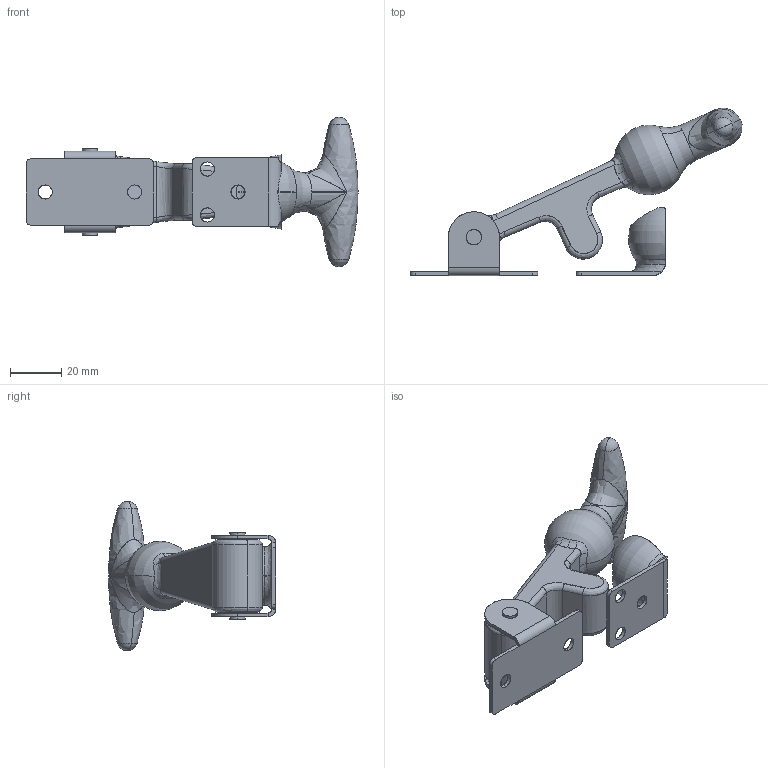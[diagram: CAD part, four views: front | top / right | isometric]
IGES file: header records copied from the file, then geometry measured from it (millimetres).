
Start section: SolidWorks IGES file using analytic representation for surfaces
Global section: file name: Z:\SOLIDWORKS\G\D_cad\Products\New Products\DRPL-124\B-46-3 DPRL-124.IGS; native system: SolidWorks 2010; preprocessor: SolidWorks 2010; author: mdk; date: 110308.161958; units: millimetre
Bounding box: 129.98 x 65.51 x 58.5 mm (x, y, z)
Surface area: 19142.5 mm2 (no closed solid volume)
Topology: 0 solids, 0 shells, 144 faces, 1899 edges, 1893 vertices
Faces by surface type: bspline 82, revolution 62
